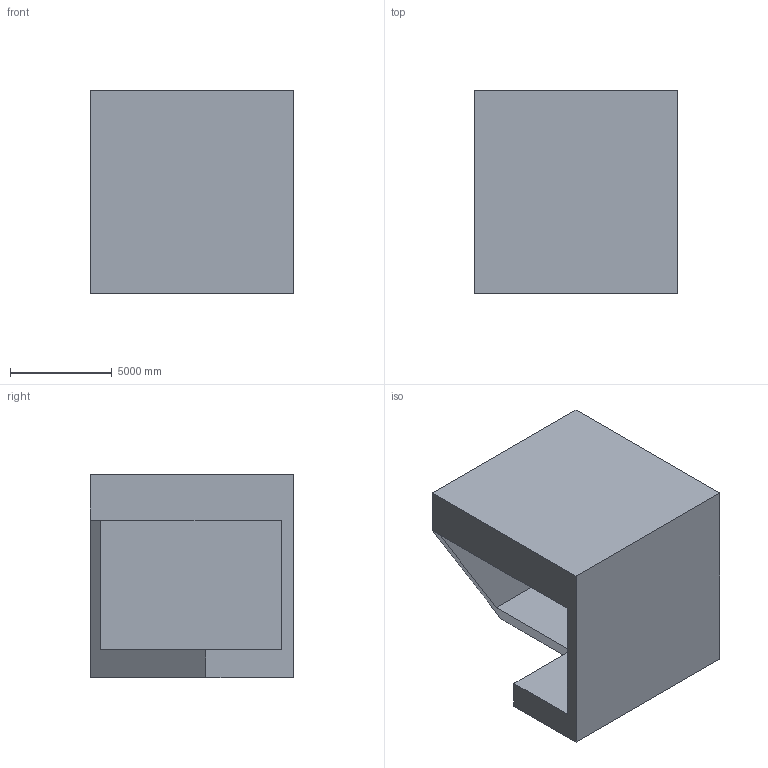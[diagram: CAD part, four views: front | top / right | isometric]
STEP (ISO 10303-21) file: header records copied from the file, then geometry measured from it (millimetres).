
FILE_DESCRIPTION (( 'STEP AP203' ), '1' );
FILE_NAME ('1079.STEP', '2022-08-18T12:40:34', ( 'user' ), ( '' ), 'SwSTEP 2.0', 'SolidWorks 2021', '' );
FILE_SCHEMA (( 'CONFIG_CONTROL_DESIGN' ));
Length unit declared in the file: centimetre
Products named in the file (1): 1079
Bounding box: 10000 x 10000 x 10000 mm (x, y, z)
Volume: 536175538992.6 mm3; surface area: 757139169.8 mm2
Topology: 1 solids, 1 shells, 13 faces, 32 edges, 21 vertices
Faces by surface type: plane 13
Entity records: 455 total; most frequent: CARTESIAN_POINT 67, ORIENTED_EDGE 64, DIRECTION 60, VECTOR 32, EDGE_CURVE 32, LINE 32, VERTEX_POINT 21, AXIS2_PLACEMENT_3D 14
